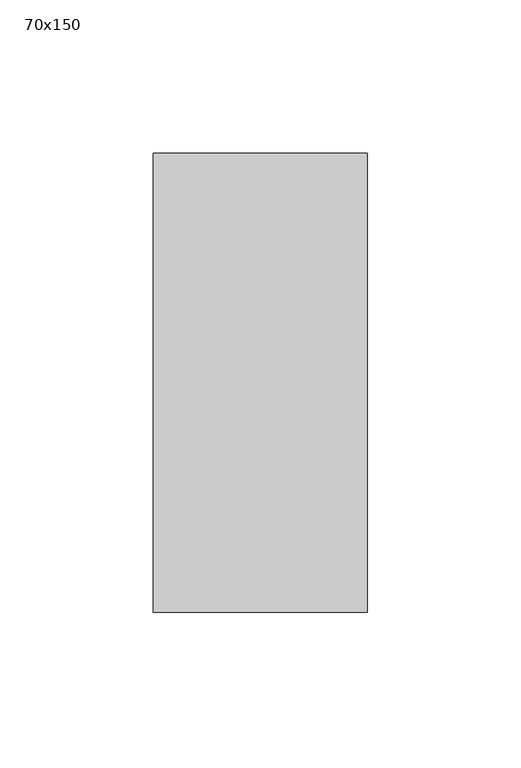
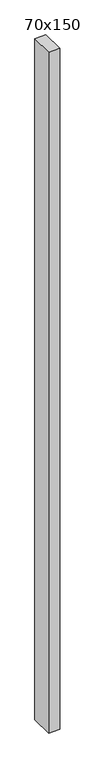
"""IFC4 building model written with IfcOpenShell, lengths in millimetres: member geometry, 長方形のマリオン : 70x150."""

import ifcopenshell
import ifcopenshell.guid

model = None  # the IFC model being written
_history = None  # IfcOwnerHistory: only IFC2X3 demands one
_inside = {}  # id of a spatial element -> (the spatial element, [elements in it])
_under = {}  # id of a project, library or spatial element -> (it, [spatial elements below it])
_declared = {}  # id of a project -> (the project, [libraries it declares])
_typed = {}  # id of a type object -> (the type object, [elements of that type])
_made_of = {}  # id of a material, layer set ... -> (it, [elements and type objects made of it])


def new_model(schema):
    """Start an empty IFC model of exactly this schema.

    Asked for "IFC4X3", IfcOpenShell would pick the latest addendum, in which some entities
    have other attributes; the version numbers below select the first issue.
    IFC2X3 requires an IfcOwnerHistory on every rooted entity: one is made here for all.
    """
    global model, _history
    if schema == "IFC4X3":
        model = ifcopenshell.file(schema_version=(4, 3, 0, 0))
    else:
        model = ifcopenshell.file(schema=schema)
    _inside.clear()
    _under.clear()
    _declared.clear()
    _typed.clear()
    _made_of.clear()
    _history = None
    if model.schema == "IFC2X3":
        org = make("IfcOrganization", Name="unknown")
        user = make(
            "IfcPersonAndOrganization",
            ThePerson=make("IfcPerson", FamilyName="unknown"),
            TheOrganization=org,
        )
        app = make(
            "IfcApplication",
            ApplicationDeveloper=org,
            Version="unknown",
            ApplicationFullName="unknown",
            ApplicationIdentifier="unknown",
        )
        _history = make(
            "IfcOwnerHistory",
            OwningUser=user,
            OwningApplication=app,
            ChangeAction="ADDED",
            CreationDate=0,
        )
    return model


def make(cls, **values):
    """One entity of the class cls with the attributes given. An attribute that is None is left unset."""
    return model.create_entity(
        cls, **{name: value for name, value in values.items() if value is not None}
    )


def rooted(cls, **values):
    """An entity with a GlobalId (a new one), such as an element, a storey or a relation."""
    return make(cls, GlobalId=ifcopenshell.guid.new(), OwnerHistory=_history, **values)


def si_unit(unit_type, name, prefix=None):
    """IfcSIUnit, for example si_unit("LENGTHUNIT", "METRE", prefix="MILLI")."""
    return make("IfcSIUnit", UnitType=unit_type, Prefix=prefix, Name=name)


def assignment(units):
    """IfcUnitAssignment: the units of a project."""
    return None if units is None else make("IfcUnitAssignment", Units=units)


def point(xyz):
    """IfcCartesianPoint."""
    return None if xyz is None else make("IfcCartesianPoint", Coordinates=xyz)


def direction(xyz):
    """IfcDirection."""
    return None if xyz is None else make("IfcDirection", DirectionRatios=xyz)


def frame(location, z_axis=None, x_axis=None):
    """IfcAxis2Placement3D, a coordinate frame: its origin and axes. An axis left out is left unset."""
    return make(
        "IfcAxis2Placement3D",
        Location=point(location),
        Axis=direction(z_axis),
        RefDirection=direction(x_axis),
    )


def origin():
    """The frame at (0, 0, 0) with its axes left unset."""
    return frame((0.0, 0.0, 0.0))


def place(relative_to, where):
    """IfcLocalPlacement: puts the frame where relative to a parent placement (None: the world)."""
    return make(
        "IfcLocalPlacement", PlacementRelTo=relative_to, RelativePlacement=where
    )


def context(
    kind, dimensions, precision=None, world=None, true_north=None, identifier=None
):
    """IfcGeometricRepresentationContext, for example the 3D "Model" context."""
    return make(
        "IfcGeometricRepresentationContext",
        ContextIdentifier=identifier,
        ContextType=kind,
        CoordinateSpaceDimension=dimensions,
        Precision=precision,
        WorldCoordinateSystem=world,
        TrueNorth=true_north,
    )


def project(units=None, contexts=None):
    """IfcProject with its units and contexts."""
    return rooted(
        "IfcProject",
        Name="project",
        RepresentationContexts=contexts,
        UnitsInContext=assignment(units),
    )


def spatial(cls, under=None, at=None, **own):
    """A site, building, storey or space (cls), placed at a placement, below another one or the project."""
    s = rooted(cls, ObjectPlacement=at, **own)
    if under is not None:
        _under.setdefault(under.id(), (under, []))[1].append(s)
    return s


def polyline(points):
    """IfcPolyline through the points."""
    return make("IfcPolyline", Points=[point(p) for p in points])


def outline(outer, holes=None, kind="AREA"):
    """IfcArbitraryClosedProfileDef: a profile drawn as a closed curve; with holes, ...WithVoids."""
    if holes is None:
        return make("IfcArbitraryClosedProfileDef", ProfileType=kind, OuterCurve=outer)
    return make(
        "IfcArbitraryProfileDefWithVoids",
        ProfileType=kind,
        OuterCurve=outer,
        InnerCurves=holes,
    )


def extrude(swept, where, along, depth):
    """IfcExtrudedAreaSolid: the profile swept, set in the frame where, extruded along a direction by depth."""
    return make(
        "IfcExtrudedAreaSolid",
        SweptArea=swept,
        Position=where,
        ExtrudedDirection=direction(along),
        Depth=depth,
    )


def shape(context_of_items, identifier, shape_type, items):
    """IfcShapeRepresentation: the items that make up one representation, for example the "Body"."""
    return make(
        "IfcShapeRepresentation",
        ContextOfItems=context_of_items,
        RepresentationIdentifier=identifier,
        RepresentationType=shape_type,
        Items=items,
    )


def source(mapping_origin, context_of_items, identifier, shape_type, items):
    """IfcRepresentationMap: a shape defined once, which mapped items show again and again."""
    return make(
        "IfcRepresentationMap",
        MappingOrigin=mapping_origin,
        MappedRepresentation=shape(context_of_items, identifier, shape_type, items),
    )


def transform(
    local_origin,
    x_axis=None,
    y_axis=None,
    z_axis=None,
    scale=None,
    scale2=None,
    scale3=None,
    uniform=True,
):
    """IfcCartesianTransformationOperator3D, or its non-uniform kind. x_axis, y_axis, z_axis: its Axis1, 2, 3."""
    if uniform:
        return make(
            "IfcCartesianTransformationOperator3D",
            Axis1=direction(x_axis),
            Axis2=direction(y_axis),
            LocalOrigin=point(local_origin),
            Scale=scale,
            Axis3=direction(z_axis),
        )
    return make(
        "IfcCartesianTransformationOperator3DnonUniform",
        Axis1=direction(x_axis),
        Axis2=direction(y_axis),
        LocalOrigin=point(local_origin),
        Scale=scale,
        Axis3=direction(z_axis),
        Scale2=scale2,
        Scale3=scale3,
    )


def mapped(mapping_source, mapping_target):
    """IfcMappedItem: shows the shape of a source again, moved by a transform."""
    return make(
        "IfcMappedItem", MappingSource=mapping_source, MappingTarget=mapping_target
    )


def made_of(thing, what):
    """Note that an element or type object is made of a material, layer set ...; save() writes the relation."""
    if what is not None:
        _made_of.setdefault(what.id(), (what, []))[1].append(thing)
    return thing


def element(
    cls,
    number,
    at=None,
    inside=None,
    cuts=None,
    type_object=None,
    material=None,
    context=None,
    identifier="Body",
    shape_type=None,
    held_by="IfcProductDefinitionShape",
    body=None,
    shapes=None,
    **own,
):
    """One element of the class cls, such as IfcWall. Its Tag is "e" and its number.

    at: its placement. inside: the storey or other place that contains it. cuts: it is an
    opening in that element (IfcRelVoidsElement). A single representation is given by context,
    identifier, shape_type and body (its items); several are given by shapes. held_by: the class
    of the entity that holds the representations. save() writes the other relations.
    """
    e = rooted(cls, Tag="e%d" % number, ObjectPlacement=at, **own)
    if body is not None:
        shapes = [shape(context, identifier, shape_type, body)]
    if shapes is not None:
        e.Representation = make(held_by, Representations=shapes)
    if inside is not None:
        _inside.setdefault(inside.id(), (inside, []))[1].append(e)
    if cuts is not None:
        rooted(
            "IfcRelVoidsElement", RelatingBuildingElement=cuts, RelatedOpeningElement=e
        )
    if type_object is not None:
        _typed.setdefault(type_object.id(), (type_object, []))[1].append(e)
    return made_of(e, material)


def aggregate(whole, parts):
    """IfcRelAggregates: a whole, such as a stair, and the parts it consists of."""
    return rooted("IfcRelAggregates", RelatingObject=whole, RelatedObjects=parts)


def save(model, path):
    """Write the relations noted so far, then the file.

    IfcRelAggregates (storeys below a building ...), IfcRelContainedInSpatialStructure (elements
    in a storey), IfcRelDefinesByType, IfcRelAssociatesMaterial and IfcRelDeclares: one each for
    every whole, place, type object, material and project.
    """
    for whole, parts in _under.values():
        aggregate(whole, parts)
    for where, things in _inside.values():
        rooted(
            "IfcRelContainedInSpatialStructure",
            RelatedElements=things,
            RelatingStructure=where,
        )
    for kind, things in _typed.values():
        rooted("IfcRelDefinesByType", RelatedObjects=things, RelatingType=kind)
    for what, things in _made_of.values():
        rooted("IfcRelAssociatesMaterial", RelatedObjects=things, RelatingMaterial=what)
    for by, libraries in _declared.values():
        rooted("IfcRelDeclares", RelatingContext=by, RelatedDefinitions=libraries)
    model.write(path)


def member_70x150_5c89d520(model_context):
    return source(origin(), model_context, "Body", "SweptSolid", [
        extrude(outline(polyline([(35.0, 75.0), (35.0, -75.0), (-35.0, -75.0), (-35.0, 75.0), (35.0, 75.0)])), frame((0.0, 0.0, -4563.3333333), z_axis=(0.0, 0.0, 1.0), x_axis=(1.0, 0.0, 0.0)), (0.0, 0.0, 1.0), 4563.3333333),
    ])


if __name__ == "__main__":
    model = new_model("IFC4")
    model_context = context("Model", 3, world=origin())
    ifc_project = project(units=[si_unit("LENGTHUNIT", "METRE", prefix="MILLI")], contexts=[model_context])
    site = spatial("IfcSite", under=ifc_project)
    building = spatial("IfcBuilding", under=site)
    placement = place(None, origin())
    member_70x150_shape = member_70x150_5c89d520(model_context)
    element("IfcMember", 1, ObjectType="長方形のマリオン : 70x150", at=placement, inside=building, context=model_context, shape_type="MappedRepresentation", body=[
        mapped(member_70x150_shape, transform((0.0, 0.0, 0.0), x_axis=(1.0, 0.0, 0.0), y_axis=(0.0, 1.0, 0.0), z_axis=(0.0, 0.0, 1.0))),
    ])
    save(model, "model.ifc")
